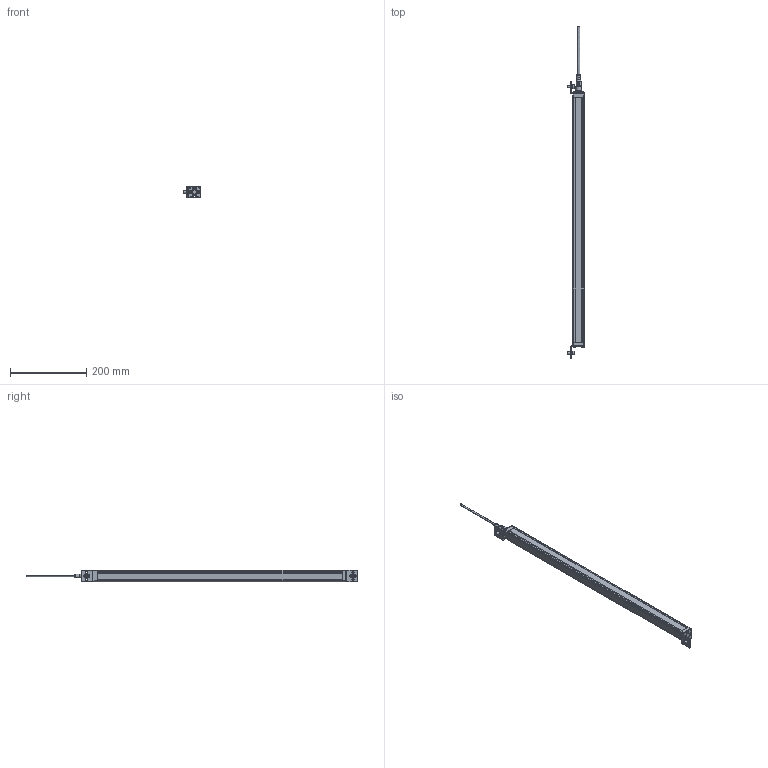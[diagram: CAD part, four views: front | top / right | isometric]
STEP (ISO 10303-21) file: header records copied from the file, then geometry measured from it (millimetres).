
FILE_DESCRIPTION(/* description */ (''),/* implementation_level */ '2;1');
FILE_NAME(/* name */ 'QE64-10-630.prt.stp',/* time_stamp */ '2023-07-18T20:06:36+08:00',/* author */ (''),/* organization */ (''),/* preprocessor_version */ 'ST-DEVELOPER v14',/* originating_system */ 'SIEMENS PLM Software NX 8.0',/* authorisation */ '');
FILE_SCHEMA (('CONFIG_CONTROL_DESIGN'));
Products named in the file (1): QE64-10-630
Bounding box: 44.2 x 868.8 x 30 mm (x, y, z)
Volume: 540426.6 mm3; surface area: 128339.5 mm2
Topology: 25 solids, 25 shells, 615 faces, 1569 edges, 1039 vertices
Faces by surface type: plane 335, cylinder 196, bspline 57, cone 18, sphere 5, torus 4
Full cylindrical faces by diameter (mm): 0.7 x2, 1 x5, 2 x5, 2.2 x8, 3.6 x8, 4 x4, 5.5 x12, 6 x2, 7 x2, 8 x1, 9.04 x1, 9.1 x1, 10 x3, 10.8 x1, 11 x2, 11.85 x1, 11.9 x1, 14.5 x1, 15 x2, 15.2 x2
Entity records: 41715 total; most frequent: CARTESIAN_POINT 27549, ORIENTED_EDGE 2832, DIRECTION 2774, EDGE_CURVE 1416, AXIS2_PLACEMENT_3D 1007, VERTEX_POINT 983, EDGE_LOOP 813, LINE 760
